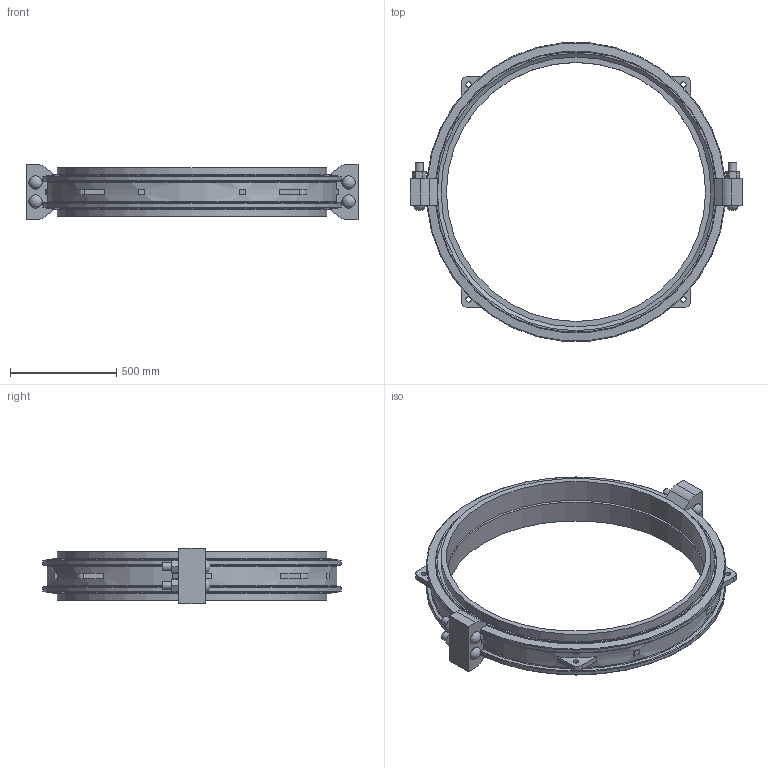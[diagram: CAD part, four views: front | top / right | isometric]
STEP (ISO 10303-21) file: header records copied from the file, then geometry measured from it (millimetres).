
FILE_DESCRIPTION(/* description */ ('VIC COUPLING FLEX STYLE W77 AGS VIC-RING ','CAx-IF Rec.Pracs.---Representation and Presentation of Product Manufacturing Information (PMI)---4.0---2014-10-13'),/* implementation_level */ '2;1');
FILE_NAME(/* name */ 'C:\Users\Vjadhav\AppData\Roaming\Autodesk\ApplicationPlugins\Victaulic.Temp\A52\Victaulic_Vic-Ring_Coupling Flexible_Style W77 (AGR)_50 (1250).stp',/* time_stamp */ '2021-12-20T11:06:28+06:00',/* author */ ('Vjadhav'),/* organization */ ('Victaulic'),/* preprocessor_version */ 'ST-DEVELOPER v17.2',/* originating_system */ 'Autodesk Inventor 2019',/* authorisation */ '');
FILE_SCHEMA (('AP242_MANAGED_MODEL_BASED_3D_ENGINEERING_MIM_LF { 1 0 10303 442 1 1 4 }'));
Length unit declared in the file: inch
Products named in the file (3): W77 VR-50.0; W77 VR-50.0_1; W77 VR-50.0_2
Assembly tree (3 placements, depth 2):
  W77 VR-50.0
    W77 VR-50.0_1
    W77 VR-50.0_2  x2
Bounding box: 1562.1 x 1404.36 x 260.35 mm (x, y, z)
Volume: 64591114 mm3; surface area: 4578025.8 mm2
Topology: 3 solids, 7 shells, 195 faces, 513 edges, 352 vertices
Faces by surface type: plane 116, cylinder 49, torus 16, cone 10, sphere 4
Full cylindrical faces by diameter (mm): 25.4 x4, 38.1 x8, 63.5 x4, 1219.2 x2, 1250.95 x1, 1270 x4
Entity records: 6541 total; most frequent: CARTESIAN_POINT 1364, DIRECTION 1021, ORIENTED_EDGE 1006, EDGE_CURVE 503, AXIS2_PLACEMENT_3D 369, VERTEX_POINT 344, LINE 283, VECTOR 283
